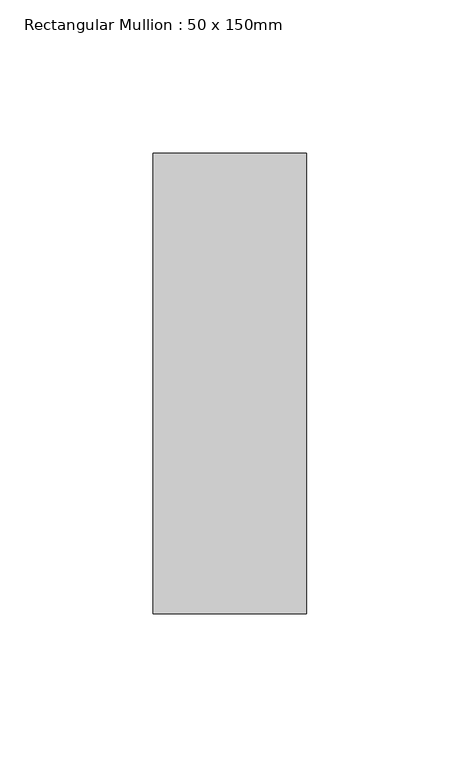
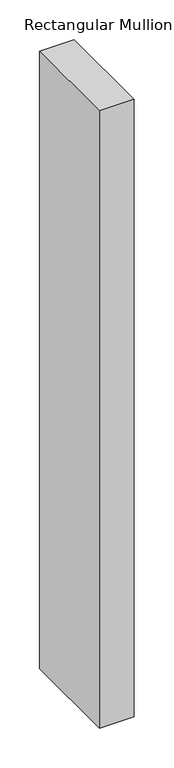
"""IFC4 building model written with IfcOpenShell, lengths in millimetres: member geometry, Rectangular Mullion : 50 x 150mm."""

from ifc_helpers import new_model, si_unit, frame, origin, place, context, project, spatial, polyline, outline, extrude, source, transform, mapped, element, save


def rectangular_mullion_50_x_150mm_939b5c67(model_context):
    return source(origin(), model_context, "Body", "SweptSolid", [
        extrude(outline(polyline([(0.0, 0.0), (0.0709202, -50.0), (-944.9503246, -50.0), (-944.8261839, 0.0), (0.0, 0.0)])), frame((0.0, -75.0, 0.0), z_axis=(0.0, 1.0, 0.0), x_axis=(0.0, 0.0, 1.0)), (0.0, 0.0, 1.0), 150.0),
    ])


if __name__ == "__main__":
    model = new_model("IFC4")
    model_context = context("Model", 3, world=origin())
    ifc_project = project(units=[si_unit("LENGTHUNIT", "METRE", prefix="MILLI")], contexts=[model_context])
    site = spatial("IfcSite", under=ifc_project)
    building = spatial("IfcBuilding", under=site)
    placement = place(None, origin())
    rectangular_mullion_50_x_150mm_shape = rectangular_mullion_50_x_150mm_939b5c67(model_context)
    element("IfcMember", 1, ObjectType="Rectangular Mullion : 50 x 150mm", at=placement, inside=building, context=model_context, shape_type="MappedRepresentation", body=[
        mapped(rectangular_mullion_50_x_150mm_shape, transform((0.0, 0.0, 0.0), x_axis=(1.0, 0.0, 0.0), y_axis=(0.0, 1.0, 0.0), z_axis=(0.0, 0.0, 1.0))),
    ])
    save(model, "model.ifc")
